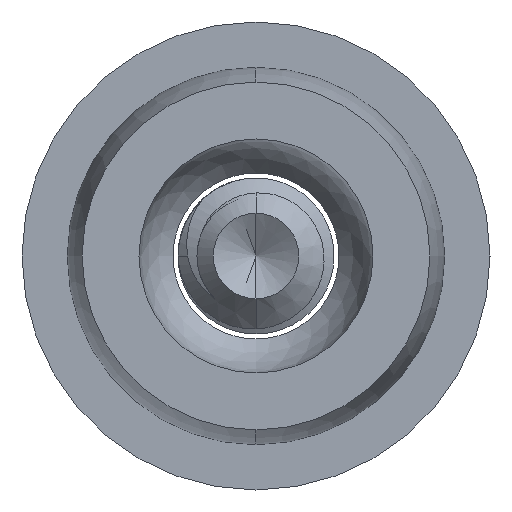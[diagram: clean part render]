
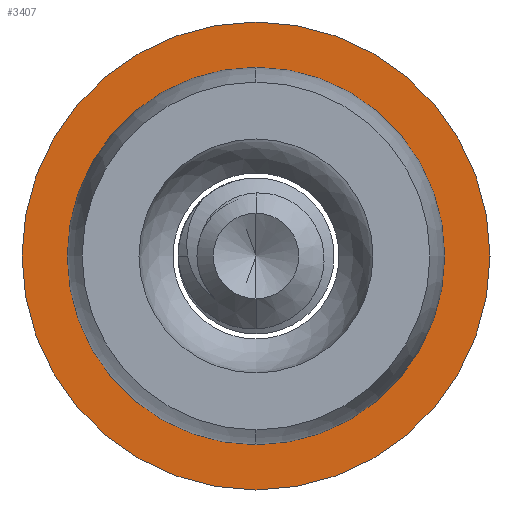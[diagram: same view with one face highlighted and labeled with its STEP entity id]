
A CAD part, left-side view. The second image highlights one B-rep face of the part: STEP entity #3407.
In plain terms, the highlighted planar face has unit normal (-1, 0, 0).
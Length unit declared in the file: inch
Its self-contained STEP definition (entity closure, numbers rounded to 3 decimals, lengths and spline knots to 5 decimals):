
#145 = ORIENTED_EDGE ( 'NONE', *, *, #4162, .F. ) ;
#214 = ORIENTED_EDGE ( 'NONE', *, *, #2201, .F. ) ;
#371 = AXIS2_PLACEMENT_3D ( 'NONE', #3810, #1889, #4129 ) ;
#409 = CIRCLE ( 'NONE', #3394, 0.375 ) ;
#485 = CARTESIAN_POINT ( 'NONE',  ( -1., 0., -0.375 ) ) ;
#610 = DIRECTION ( 'NONE',  ( 0., 0., 1. ) ) ;
#628 = CIRCLE ( 'NONE', #371, 0.375 ) ;
#664 = DIRECTION ( 'NONE',  ( -1., 0., 0. ) ) ;
#678 = CARTESIAN_POINT ( 'NONE',  ( -1., 0., 0.3025 ) ) ;
#684 = CIRCLE ( 'NONE', #1539, 0.3025 ) ;
#699 = CARTESIAN_POINT ( 'NONE',  ( -1., 0., 0.375 ) ) ;
#863 = EDGE_LOOP ( 'NONE', ( #145, #214 ) ) ;
#970 = ORIENTED_EDGE ( 'NONE', *, *, #2690, .T. ) ;
#1027 = DIRECTION ( 'NONE',  ( -1., 0., 0. ) ) ;
#1129 = DIRECTION ( 'NONE',  ( -1., 0., 0. ) ) ;
#1250 = DIRECTION ( 'NONE',  ( -1., 0., 0. ) ) ;
#1498 = CIRCLE ( 'NONE', #3896, 0.3025 ) ;
#1539 = AXIS2_PLACEMENT_3D ( 'NONE', #2942, #1027, #3270 ) ;
#1715 = EDGE_LOOP ( 'NONE', ( #3544, #970 ) ) ;
#1889 = DIRECTION ( 'NONE',  ( -1., 0., 0. ) ) ;
#1895 = CARTESIAN_POINT ( 'NONE',  ( -1., 0., -0.3025 ) ) ;
#1982 = FACE_OUTER_BOUND ( 'NONE', #1715, .T. ) ;
#2201 = EDGE_CURVE ( 'NONE', #2382, #2836, #684, .T. ) ;
#2251 = VERTEX_POINT ( 'NONE', #699 ) ;
#2369 = CARTESIAN_POINT ( 'NONE',  ( -1., 0., -0.3025 ) ) ;
#2382 = VERTEX_POINT ( 'NONE', #2369 ) ;
#2526 = PLANE ( 'NONE',  #3002 ) ;
#2577 = CARTESIAN_POINT ( 'NONE',  ( -1., 0., 0. ) ) ;
#2690 = EDGE_CURVE ( 'NONE', #3099, #2251, #628, .T. ) ;
#2762 = EDGE_CURVE ( 'NONE', #2251, #3099, #409, .T. ) ;
#2836 = VERTEX_POINT ( 'NONE', #678 ) ;
#2907 = DIRECTION ( 'NONE',  ( 0., 0., 1. ) ) ;
#2930 = FACE_BOUND ( 'NONE', #863, .T. ) ;
#2942 = CARTESIAN_POINT ( 'NONE',  ( -1., 0., 0. ) ) ;
#3002 = AXIS2_PLACEMENT_3D ( 'NONE', #1895, #1250, #610 ) ;
#3049 = CARTESIAN_POINT ( 'NONE',  ( -1., 0., 0. ) ) ;
#3099 = VERTEX_POINT ( 'NONE', #485 ) ;
#3270 = DIRECTION ( 'NONE',  ( 0., 0., 1. ) ) ;
#3371 = DIRECTION ( 'NONE',  ( 0., 0., 1. ) ) ;
#3394 = AXIS2_PLACEMENT_3D ( 'NONE', #2577, #664, #2907 ) ;
#3407 = ADVANCED_FACE ( 'NONE', ( #2930, #1982 ), #2526, .T. ) ;
#3544 = ORIENTED_EDGE ( 'NONE', *, *, #2762, .T. ) ;
#3810 = CARTESIAN_POINT ( 'NONE',  ( -1., 0., 0. ) ) ;
#3896 = AXIS2_PLACEMENT_3D ( 'NONE', #3049, #1129, #3371 ) ;
#4129 = DIRECTION ( 'NONE',  ( 0., 0., 1. ) ) ;
#4162 = EDGE_CURVE ( 'NONE', #2836, #2382, #1498, .T. ) ;
